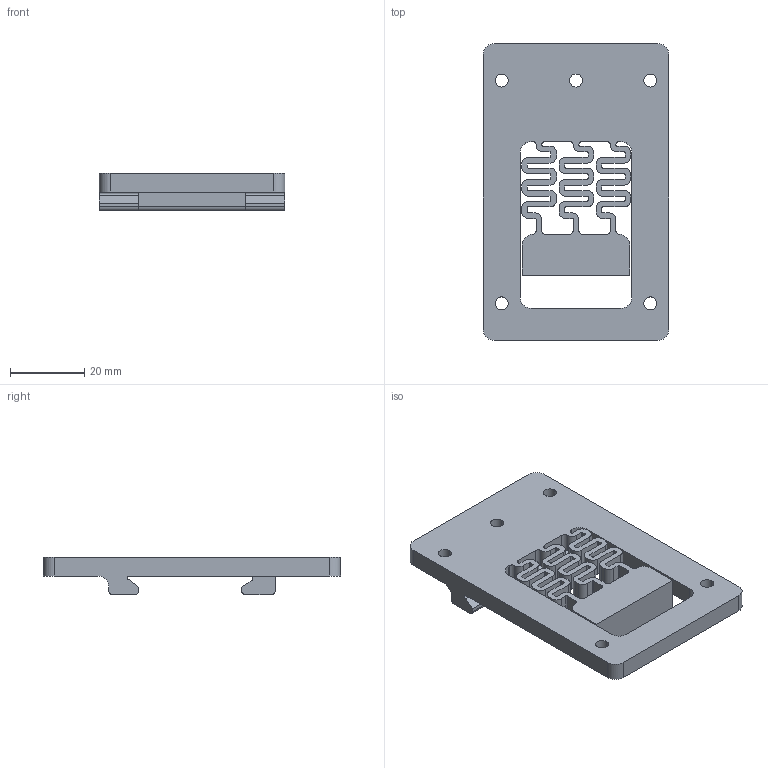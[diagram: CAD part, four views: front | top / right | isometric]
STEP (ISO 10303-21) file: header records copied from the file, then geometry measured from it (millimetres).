
FILE_DESCRIPTION((''),'2;1');
FILE_NAME('0001','2025-05-20T13:32:16',('Mayn'),(''),'CREO PARAMETRIC BY PTC INC, 2024063','CREO PARAMETRIC BY PTC INC, 2024063','');
FILE_SCHEMA(('CONFIG_CONTROL_DESIGN'));
Length unit declared in the file: millimetre
Products named in the file (1): 0001
Bounding box: 50 x 80 x 10 mm (x, y, z)
Volume: 19007.8 mm3; surface area: 12147.7 mm2
Topology: 1 solids, 1 shells, 235 faces, 699 edges, 466 vertices
Faces by surface type: cylinder 124, plane 111
Entity records: 8031 total; most frequent: DIRECTION 1417, CARTESIAN_POINT 1400, ORIENTED_EDGE 1398, EDGE_CURVE 699, AXIS2_PLACEMENT_3D 483, VERTEX_POINT 466, VECTOR 451, LINE 451
